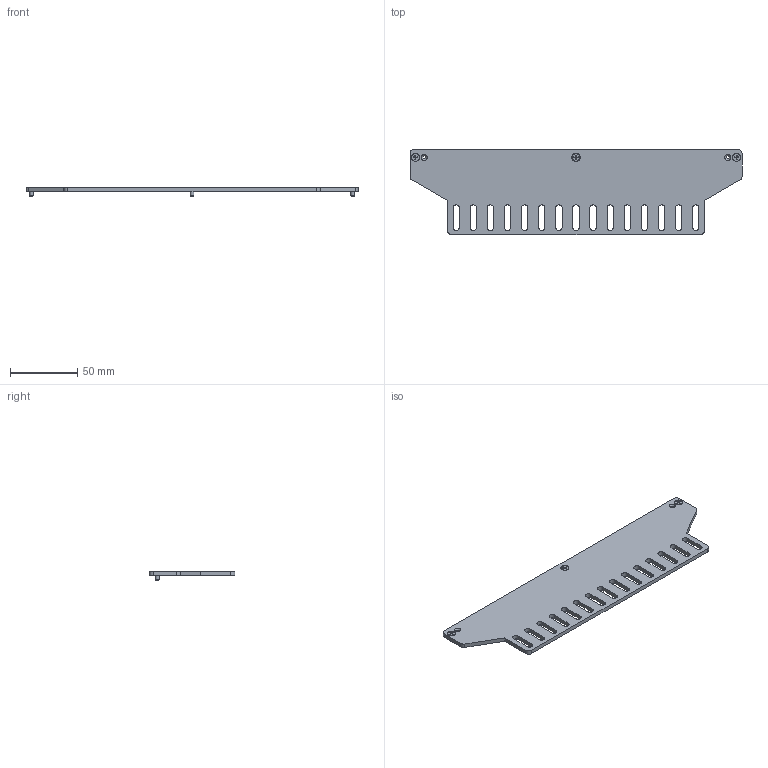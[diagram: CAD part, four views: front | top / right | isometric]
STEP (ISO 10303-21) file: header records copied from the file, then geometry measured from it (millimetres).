
FILE_DESCRIPTION((''),'2;1');
FILE_NAME('C:\old_Drawings\shrinkwrapped website .stp files\11705-01-STP.stp','2012-05-24T09:57:43',('GaryRobinson'),(''),'Autodesk Inventor 2011','Autodesk Inventor 2011','');
FILE_SCHEMA(('AUTOMOTIVE_DESIGN { 1 0 10303 214 1 1 1 1 }'));
Length unit declared in the file: inch
Products named in the file (1): 11705-01-STP
Bounding box: 246.38 x 63.5 x 6.35 mm (x, y, z)
Surface area: 29000.2 mm2 (no closed solid volume)
Topology: 0 solids, 7 shells, 95 faces, 303 edges, 216 vertices
Faces by surface type: plane 46, cylinder 44, cone 5
Full cylindrical faces by diameter (mm): 2.438 x2, 2.845 x3, 4.115 x3
Entity records: 3422 total; most frequent: CARTESIAN_POINT 592, DIRECTION 576, ORIENTED_EDGE 522, EDGE_CURVE 285, VERTEX_POINT 211, AXIS2_PLACEMENT_3D 195, VECTOR 186, LINE 186
